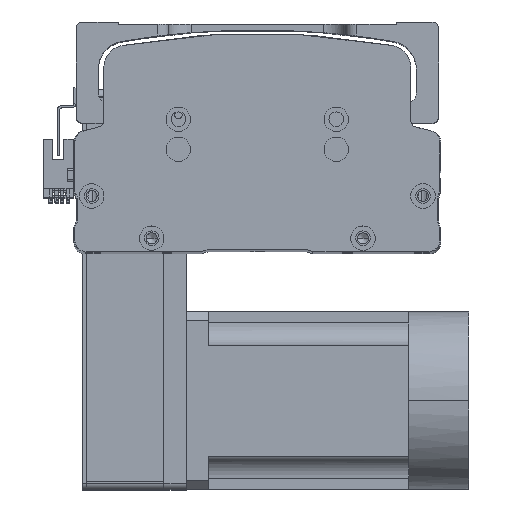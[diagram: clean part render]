
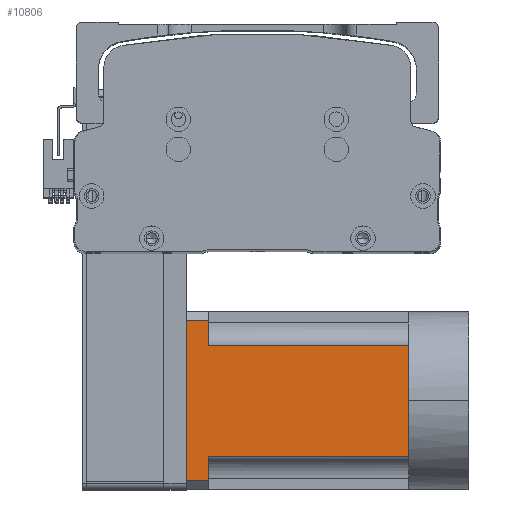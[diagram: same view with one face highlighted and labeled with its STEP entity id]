
A CAD part, top view. The second image highlights one B-rep face of the part: STEP entity #10806.
In plain terms, the highlighted planar face has unit normal (0, 0, 1) as drawn and (0, 0, -1) by its records, which use the part's own axes.
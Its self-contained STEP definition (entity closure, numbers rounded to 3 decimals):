
#729 = EDGE_CURVE ( 'NONE', #9707, #59036, #54586, .T. ) ;
#3083 = DIRECTION ( 'NONE',  ( 0., -1., 0. ) ) ;
#4554 = VECTOR ( 'NONE', #6239, 1000. ) ;
#6239 = DIRECTION ( 'NONE',  ( 0., 1., 0. ) ) ;
#7131 = PLANE ( 'NONE',  #20774 ) ;
#7770 = VERTEX_POINT ( 'NONE', #30724 ) ;
#8643 = VECTOR ( 'NONE', #19296, 1000. ) ;
#8943 = DIRECTION ( 'NONE',  ( -1., 0., 0. ) ) ;
#9707 = VERTEX_POINT ( 'NONE', #48020 ) ;
#10200 = LINE ( 'NONE', #40536, #22779 ) ;
#10806 = ADVANCED_FACE ( 'NONE', ( #23049 ), #7131, .T. ) ;
#13027 = LINE ( 'NONE', #59439, #22601 ) ;
#14079 = DIRECTION ( 'NONE',  ( -1., 0., 0. ) ) ;
#15074 = ORIENTED_EDGE ( 'NONE', *, *, #59484, .T. ) ;
#15132 = ORIENTED_EDGE ( 'NONE', *, *, #48031, .T. ) ;
#15701 = VERTEX_POINT ( 'NONE', #47855 ) ;
#16383 = CARTESIAN_POINT ( 'NONE',  ( 25., 90., -40. ) ) ;
#16605 = DIRECTION ( 'NONE',  ( 0., 0., -1. ) ) ;
#18283 = ORIENTED_EDGE ( 'NONE', *, *, #22815, .T. ) ;
#18398 = ORIENTED_EDGE ( 'NONE', *, *, #20452, .T. ) ;
#18830 = CARTESIAN_POINT ( 'NONE',  ( -40., 100., -40. ) ) ;
#19280 = EDGE_CURVE ( 'NONE', #44471, #15701, #10200, .T. ) ;
#19296 = DIRECTION ( 'NONE',  ( -1., 0., 0. ) ) ;
#20452 = EDGE_CURVE ( 'NONE', #26704, #36247, #13027, .T. ) ;
#20774 = AXIS2_PLACEMENT_3D ( 'NONE', #30641, #16605, #49516 ) ;
#22601 = VECTOR ( 'NONE', #3083, 1000. ) ;
#22779 = VECTOR ( 'NONE', #35789, 1000. ) ;
#22815 = EDGE_CURVE ( 'NONE', #43783, #9707, #59095, .T. ) ;
#23049 = FACE_OUTER_BOUND ( 'NONE', #43734, .T. ) ;
#24541 = DIRECTION ( 'NONE',  ( 0., 1., 0. ) ) ;
#26704 = VERTEX_POINT ( 'NONE', #16383 ) ;
#29303 = CARTESIAN_POINT ( 'NONE',  ( -25., -27., -40. ) ) ;
#30476 = LINE ( 'NONE', #29303, #53985 ) ;
#30641 = CARTESIAN_POINT ( 'NONE',  ( -40., -27., -40. ) ) ;
#30680 = CARTESIAN_POINT ( 'NONE',  ( -40., 90., -40. ) ) ;
#30724 = CARTESIAN_POINT ( 'NONE',  ( 0., 0., -40. ) ) ;
#31392 = VECTOR ( 'NONE', #58810, 1000. ) ;
#32742 = VECTOR ( 'NONE', #46776, 1000. ) ;
#32907 = LINE ( 'NONE', #30680, #31392 ) ;
#33132 = CARTESIAN_POINT ( 'NONE',  ( 36., 100., -40. ) ) ;
#34006 = ORIENTED_EDGE ( 'NONE', *, *, #19280, .T. ) ;
#34109 = VECTOR ( 'NONE', #8943, 1000. ) ;
#34485 = CARTESIAN_POINT ( 'NONE',  ( -36., -27., -40. ) ) ;
#35789 = DIRECTION ( 'NONE',  ( 0., -1., 0. ) ) ;
#36247 = VERTEX_POINT ( 'NONE', #52242 ) ;
#37240 = CARTESIAN_POINT ( 'NONE',  ( -40., 90., -40. ) ) ;
#37394 = CARTESIAN_POINT ( 'NONE',  ( -40., 0., -40. ) ) ;
#37509 = EDGE_CURVE ( 'NONE', #7770, #58544, #46689, .T. ) ;
#40536 = CARTESIAN_POINT ( 'NONE',  ( 36., -27., -40. ) ) ;
#41452 = EDGE_CURVE ( 'NONE', #44471, #59036, #43351, .T. ) ;
#42324 = ORIENTED_EDGE ( 'NONE', *, *, #37509, .T. ) ;
#43351 = LINE ( 'NONE', #18830, #54355 ) ;
#43734 = EDGE_LOOP ( 'NONE', ( #58920, #34006, #54026, #18398, #15074, #42324, #15132, #18283, #50648 ) ) ;
#43783 = VERTEX_POINT ( 'NONE', #60107 ) ;
#44471 = VERTEX_POINT ( 'NONE', #33132 ) ;
#46689 = LINE ( 'NONE', #37394, #32742 ) ;
#46776 = DIRECTION ( 'NONE',  ( -1., 0., 0. ) ) ;
#47505 = CARTESIAN_POINT ( 'NONE',  ( -40., 0., -40. ) ) ;
#47855 = CARTESIAN_POINT ( 'NONE',  ( 36., 90., -40. ) ) ;
#48020 = CARTESIAN_POINT ( 'NONE',  ( -36., 90., -40. ) ) ;
#48031 = EDGE_CURVE ( 'NONE', #58544, #43783, #30476, .T. ) ;
#48772 = CARTESIAN_POINT ( 'NONE',  ( -36., 100., -40. ) ) ;
#49516 = DIRECTION ( 'NONE',  ( -1., 0., 0. ) ) ;
#50648 = ORIENTED_EDGE ( 'NONE', *, *, #729, .T. ) ;
#52242 = CARTESIAN_POINT ( 'NONE',  ( 25., 0., -40. ) ) ;
#53772 = CARTESIAN_POINT ( 'NONE',  ( -25., 0., -40. ) ) ;
#53985 = VECTOR ( 'NONE', #24541, 1000. ) ;
#54026 = ORIENTED_EDGE ( 'NONE', *, *, #55149, .T. ) ;
#54355 = VECTOR ( 'NONE', #14079, 1000. ) ;
#54586 = LINE ( 'NONE', #34485, #4554 ) ;
#55149 = EDGE_CURVE ( 'NONE', #15701, #26704, #32907, .T. ) ;
#58544 = VERTEX_POINT ( 'NONE', #53772 ) ;
#58686 = LINE ( 'NONE', #47505, #8643 ) ;
#58810 = DIRECTION ( 'NONE',  ( -1., 0., 0. ) ) ;
#58920 = ORIENTED_EDGE ( 'NONE', *, *, #41452, .F. ) ;
#59036 = VERTEX_POINT ( 'NONE', #48772 ) ;
#59095 = LINE ( 'NONE', #37240, #34109 ) ;
#59439 = CARTESIAN_POINT ( 'NONE',  ( 25., -27., -40. ) ) ;
#59484 = EDGE_CURVE ( 'NONE', #36247, #7770, #58686, .T. ) ;
#60107 = CARTESIAN_POINT ( 'NONE',  ( -25., 90., -40. ) ) ;
